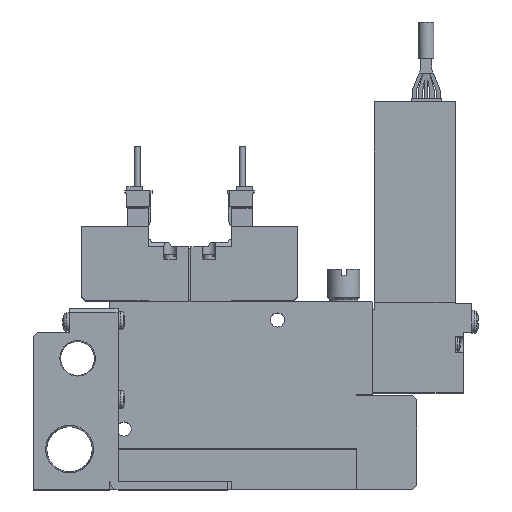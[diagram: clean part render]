
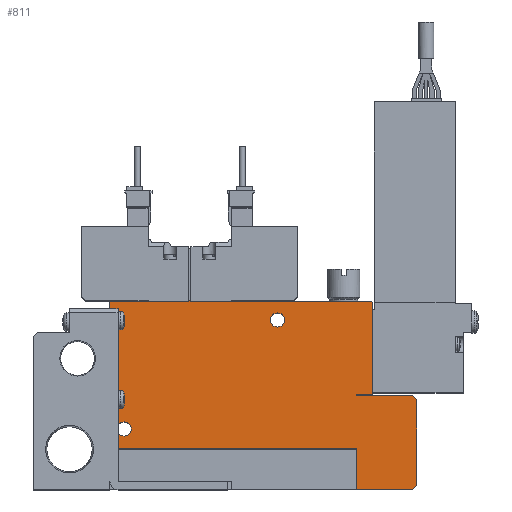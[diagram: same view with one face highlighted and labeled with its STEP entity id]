
A CAD part, top view. The second image highlights one B-rep face of the part: STEP entity #811.
In plain terms, the highlighted planar face has unit normal (0, 0, 1).
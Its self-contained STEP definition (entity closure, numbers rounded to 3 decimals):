
#811=ADVANCED_FACE('',(#1857,#1858,#1859),#1860,.F.);
#1857=FACE_OUTER_BOUND('',#3379,.T.);
#1858=FACE_BOUND('',#3380,.T.);
#1859=FACE_BOUND('',#3381,.T.);
#1860=PLANE('',#3382);
#3379=EDGE_LOOP('',(#6976,#6977,#6978,#6979,#6980,#6981,#6982,#6983,#6984,#6985,#6986,#6987,#6988,#6989));
#3380=EDGE_LOOP('',(#6990));
#3381=EDGE_LOOP('',(#6991));
#3382=AXIS2_PLACEMENT_3D('',#6992,#6993,#6994);
#6976=ORIENTED_EDGE('',*,*,#10073,.T.);
#6977=ORIENTED_EDGE('',*,*,#10112,.F.);
#6978=ORIENTED_EDGE('',*,*,#10110,.F.);
#6979=ORIENTED_EDGE('',*,*,#10113,.T.);
#6980=ORIENTED_EDGE('',*,*,#10114,.T.);
#6981=ORIENTED_EDGE('',*,*,#10115,.T.);
#6982=ORIENTED_EDGE('',*,*,#10116,.T.);
#6983=ORIENTED_EDGE('',*,*,#10117,.T.);
#6984=ORIENTED_EDGE('',*,*,#10118,.T.);
#6985=ORIENTED_EDGE('',*,*,#10119,.T.);
#6986=ORIENTED_EDGE('',*,*,#10120,.T.);
#6987=ORIENTED_EDGE('',*,*,#10121,.T.);
#6988=ORIENTED_EDGE('',*,*,#10122,.T.);
#6989=ORIENTED_EDGE('',*,*,#10123,.T.);
#6990=ORIENTED_EDGE('',*,*,#10124,.F.);
#6991=ORIENTED_EDGE('',*,*,#10125,.F.);
#6992=CARTESIAN_POINT('',(0.0,0.0,5.0));
#6993=DIRECTION('',(0.0,0.0,-1.0));
#6994=DIRECTION('',(0.0,-1.0,0.0));
#10073=EDGE_CURVE('',#12213,#12211,#12214,.T.);
#10110=EDGE_CURVE('',#12282,#12284,#12285,.T.);
#10112=EDGE_CURVE('',#12284,#12211,#12287,.T.);
#10113=EDGE_CURVE('',#12282,#12288,#12289,.T.);
#10114=EDGE_CURVE('',#12288,#12290,#12291,.T.);
#10115=EDGE_CURVE('',#12290,#12292,#12293,.T.);
#10116=EDGE_CURVE('',#12292,#12294,#12295,.T.);
#10117=EDGE_CURVE('',#12294,#12296,#12297,.T.);
#10118=EDGE_CURVE('',#12296,#12298,#12299,.T.);
#10119=EDGE_CURVE('',#12298,#12300,#12301,.T.);
#10120=EDGE_CURVE('',#12300,#12302,#12303,.T.);
#10121=EDGE_CURVE('',#12302,#12304,#12305,.T.);
#10122=EDGE_CURVE('',#12304,#12306,#12307,.T.);
#10123=EDGE_CURVE('',#12306,#12213,#12308,.T.);
#10124=EDGE_CURVE('',#12309,#12309,#12310,.T.);
#10125=EDGE_CURVE('',#12311,#12311,#12312,.T.);
#12211=VERTEX_POINT('',#15732);
#12213=VERTEX_POINT('',#15735);
#12214=LINE('',#15736,#15737);
#12282=VERTEX_POINT('',#15834);
#12284=VERTEX_POINT('',#15837);
#12285=LINE('',#15838,#15839);
#12287=LINE('',#15842,#15843);
#12288=VERTEX_POINT('',#15844);
#12289=LINE('',#15845,#15846);
#12290=VERTEX_POINT('',#15847);
#12291=LINE('',#15848,#15849);
#12292=VERTEX_POINT('',#15850);
#12293=LINE('',#15851,#15852);
#12294=VERTEX_POINT('',#15853);
#12295=LINE('',#15854,#15855);
#12296=VERTEX_POINT('',#15856);
#12297=LINE('',#15857,#15858);
#12298=VERTEX_POINT('',#15859);
#12299=LINE('',#15860,#15861);
#12300=VERTEX_POINT('',#15862);
#12301=LINE('',#15863,#15864);
#12302=VERTEX_POINT('',#15865);
#12303=LINE('',#15866,#15867);
#12304=VERTEX_POINT('',#15868);
#12305=LINE('',#15869,#15870);
#12306=VERTEX_POINT('',#15871);
#12307=LINE('',#15872,#15873);
#12308=LINE('',#15874,#15875);
#12309=VERTEX_POINT('',#15876);
#12310=CIRCLE('',#15877,1.75);
#12311=VERTEX_POINT('',#15878);
#12312=CIRCLE('',#15879,1.75);
#15732=CARTESIAN_POINT('',(0.0,10.1,5.0));
#15735=CARTESIAN_POINT('',(0.0,46.4,5.0));
#15736=CARTESIAN_POINT('',(0.0,46.4,5.0));
#15737=VECTOR('',#19507,1.0);
#15834=CARTESIAN_POINT('',(61.1,0.0,5.0));
#15837=CARTESIAN_POINT('',(61.1,10.1,5.0));
#15838=CARTESIAN_POINT('',(61.1,0.0,5.0));
#15839=VECTOR('',#19556,1.0);
#15842=CARTESIAN_POINT('',(61.1,10.1,5.0));
#15843=VECTOR('',#19558,1.0);
#15844=CARTESIAN_POINT('',(75.0,0.0,5.0));
#15845=CARTESIAN_POINT('',(0.0,0.0,5.0));
#15846=VECTOR('',#19559,1.0);
#15847=CARTESIAN_POINT('',(76.0,1.0,5.0));
#15848=CARTESIAN_POINT('',(75.0,0.0,5.0));
#15849=VECTOR('',#19560,1.0);
#15850=CARTESIAN_POINT('',(76.0,22.25,5.0));
#15851=CARTESIAN_POINT('',(76.0,1.0,5.0));
#15852=VECTOR('',#19561,1.0);
#15853=CARTESIAN_POINT('',(75.0,23.25,5.0));
#15854=CARTESIAN_POINT('',(76.0,22.25,5.0));
#15855=VECTOR('',#19562,1.0);
#15856=CARTESIAN_POINT('',(61.0,23.25,5.0));
#15857=CARTESIAN_POINT('',(75.0,23.25,5.0));
#15858=VECTOR('',#19563,1.0);
#15859=CARTESIAN_POINT('',(61.0,23.5,5.0));
#15860=CARTESIAN_POINT('',(61.0,23.25,5.0));
#15861=VECTOR('',#19564,1.0);
#15862=CARTESIAN_POINT('',(65.0,23.5,5.0));
#15863=CARTESIAN_POINT('',(61.0,23.5,5.0));
#15864=VECTOR('',#19565,1.0);
#15865=CARTESIAN_POINT('',(65.0,46.4,5.0));
#15866=CARTESIAN_POINT('',(65.0,23.5,5.0));
#15867=VECTOR('',#19566,1.0);
#15868=CARTESIAN_POINT('',(64.8,46.6,5.0));
#15869=CARTESIAN_POINT('',(65.0,46.4,5.0));
#15870=VECTOR('',#19567,1.0);
#15871=CARTESIAN_POINT('',(0.2,46.6,5.0));
#15872=CARTESIAN_POINT('',(64.8,46.6,5.0));
#15873=VECTOR('',#19568,1.0);
#15874=CARTESIAN_POINT('',(0.2,46.6,5.0));
#15875=VECTOR('',#19569,1.0);
#15876=CARTESIAN_POINT('',(5.25,15.0,5.0));
#15877=AXIS2_PLACEMENT_3D('',#19570,#19571,#19572);
#15878=CARTESIAN_POINT('',(43.25,42.0,5.0));
#15879=AXIS2_PLACEMENT_3D('',#19573,#19574,#19575);
#19507=DIRECTION('',(0.0,-1.0,0.0));
#19556=DIRECTION('',(0.0,1.0,0.0));
#19558=DIRECTION('',(-1.0,0.0,0.0));
#19559=DIRECTION('',(1.0,0.0,0.0));
#19560=DIRECTION('',(0.707,0.707,0.0));
#19561=DIRECTION('',(0.0,1.0,0.0));
#19562=DIRECTION('',(-0.707,0.707,0.0));
#19563=DIRECTION('',(-1.0,0.0,0.0));
#19564=DIRECTION('',(0.0,1.0,0.0));
#19565=DIRECTION('',(1.0,0.,0.0));
#19566=DIRECTION('',(0.0,1.0,0.0));
#19567=DIRECTION('',(-0.707,0.707,0.0));
#19568=DIRECTION('',(-1.0,0.0,0.0));
#19569=DIRECTION('',(-0.707,-0.707,0.0));
#19570=CARTESIAN_POINT('',(3.5,15.0,5.0));
#19571=DIRECTION('',(0.0,0.0,1.0));
#19572=DIRECTION('',(1.0,0.0,0.0));
#19573=CARTESIAN_POINT('',(41.5,42.0,5.0));
#19574=DIRECTION('',(0.0,0.0,1.0));
#19575=DIRECTION('',(1.0,0.0,0.0));
